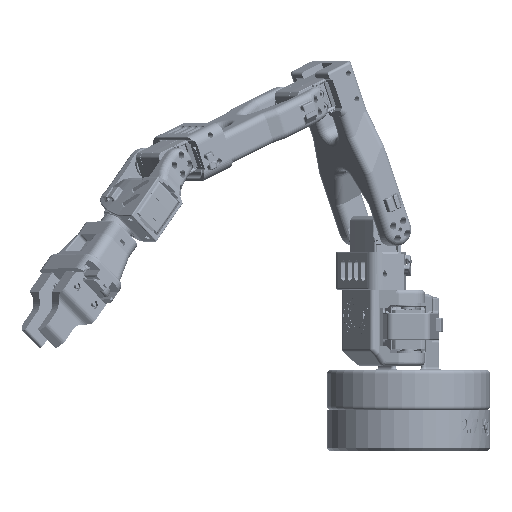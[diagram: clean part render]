
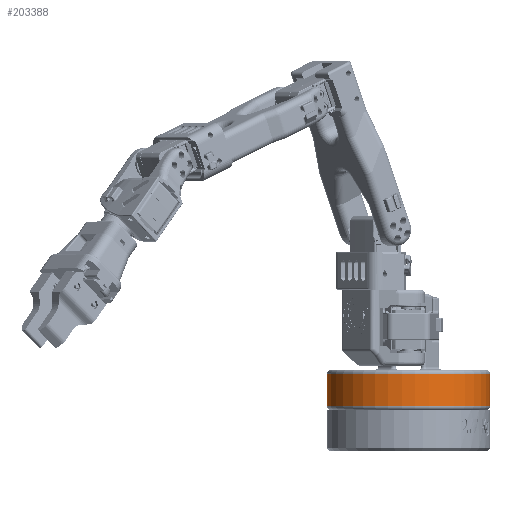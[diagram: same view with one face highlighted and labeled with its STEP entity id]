
A CAD part, front view. The second image highlights one B-rep face of the part: STEP entity #203388.
In plain terms, the highlighted cylindrical face has radius 60 mm (diameter 120 mm), a partial arc.
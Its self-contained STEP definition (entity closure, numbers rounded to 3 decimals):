
#14871=FACE_OUTER_BOUND('',#25868,.T.);
#25868=EDGE_LOOP('',(#139916,#139917,#139918,#139919));
#37519=LINE('',#289623,#60532);
#37555=LINE('',#289780,#60568);
#60532=VECTOR('',#233869,10.);
#60568=VECTOR('',#233989,10.);
#83648=CIRCLE('',#217736,60.);
#83649=CIRCLE('',#217738,60.);
#88330=VERTEX_POINT('',#289602);
#88333=VERTEX_POINT('',#289617);
#88393=VERTEX_POINT('',#289762);
#88394=VERTEX_POINT('',#289774);
#108668=EDGE_CURVE('',#88330,#88333,#37519,.T.);
#108741=EDGE_CURVE('',#88393,#88394,#37555,.T.);
#108881=EDGE_CURVE('',#88333,#88393,#83648,.T.);
#108882=EDGE_CURVE('',#88394,#88330,#83649,.T.);
#139916=ORIENTED_EDGE('',*,*,#108668,.F.);
#139917=ORIENTED_EDGE('',*,*,#108882,.F.);
#139918=ORIENTED_EDGE('',*,*,#108741,.F.);
#139919=ORIENTED_EDGE('',*,*,#108881,.F.);
#201030=CYLINDRICAL_SURFACE('',#217737,60.);
#203388=ADVANCED_FACE('',(#14871),#201030,.T.);
#217736=AXIS2_PLACEMENT_3D('',#290084,#234358,#234359);
#217737=AXIS2_PLACEMENT_3D('',#290085,#234360,#234361);
#217738=AXIS2_PLACEMENT_3D('',#290086,#234362,#234363);
#233869=DIRECTION('',(0.,1.,0.));
#233989=DIRECTION('',(0.,-1.,0.));
#234358=DIRECTION('center_axis',(0.,1.,0.));
#234359=DIRECTION('ref_axis',(0.,0.,1.));
#234360=DIRECTION('center_axis',(0.,-1.,0.));
#234361=DIRECTION('ref_axis',(0.,0.,
1.));
#234362=DIRECTION('center_axis',(0.,-1.,0.));
#234363=DIRECTION('ref_axis',(0.,0.,1.));
#289602=CARTESIAN_POINT('',(-51.631,-10.6,-13.545));
#289617=CARTESIAN_POINT('',(-51.631,13.4,-13.545));
#289623=CARTESIAN_POINT('',(-51.631,1.4,-13.545));
#289762=CARTESIAN_POINT('',(51.654,13.4,-13.545));
#289774=CARTESIAN_POINT('',(51.654,-10.6,-13.545));
#289780=CARTESIAN_POINT('',(51.654,1.4,-13.545));
#290084=CARTESIAN_POINT('Origin',(0.011,13.4,17.));
#290085=CARTESIAN_POINT('Origin',(0.011,1.4,17.));
#290086=CARTESIAN_POINT('Origin',(0.011,-10.6,
17.));
